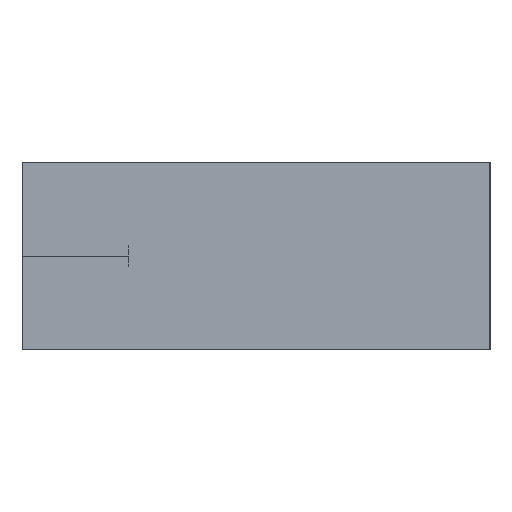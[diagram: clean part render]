
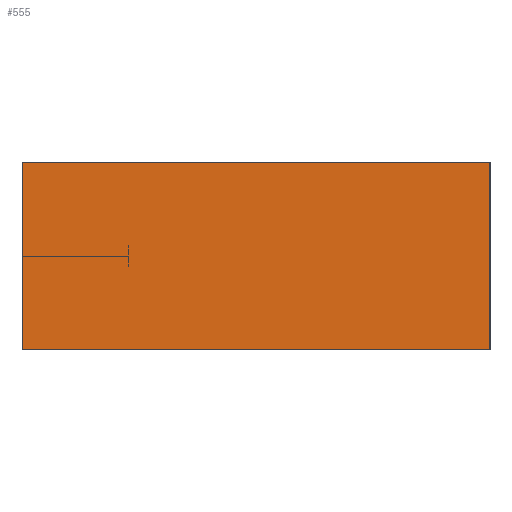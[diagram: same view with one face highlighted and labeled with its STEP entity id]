
A CAD part, left-side view. The second image highlights one B-rep face of the part: STEP entity #555.
In plain terms, the highlighted planar face has unit normal (-1, 0, 0).
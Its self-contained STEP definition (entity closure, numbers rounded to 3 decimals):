
#311 = VERTEX_POINT( '', #824 );
#381 = VERTEX_POINT( '', #897 );
#507 = VERTEX_POINT( '', #1034 );
#509 = EDGE_CURVE( '', #381, #685, #1036, .T. );
#555 = ADVANCED_FACE( '', ( #1088 ), #1089, .T. );
#561 = EDGE_CURVE( '', #685, #507, #1096, .T. );
#583 = EDGE_CURVE( '', #381, #311, #1118, .T. );
#639 = EDGE_CURVE( '', #311, #507, #1180, .T. );
#685 = VERTEX_POINT( '', #1231 );
#824 = CARTESIAN_POINT( '', ( -4., 0., -7. ) );
#897 = CARTESIAN_POINT( '', ( -4., 0., 7. ) );
#1034 = CARTESIAN_POINT( '', ( -4., -35., -7. ) );
#1036 = LINE( '', #1693, #1694 );
#1088 = FACE_OUTER_BOUND( '', #1760, .T. );
#1089 = PLANE( '', #1761 );
#1096 = LINE( '', #1769, #1770 );
#1118 = LINE( '', #1809, #1810 );
#1180 = LINE( '', #1903, #1904 );
#1231 = CARTESIAN_POINT( '', ( -4., -35., 7. ) );
#1693 = CARTESIAN_POINT( '', ( -4., 0., 7. ) );
#1694 = VECTOR( '', #2335, 1. );
#1760 = EDGE_LOOP( '', ( #2412, #2413, #2414, #2415 ) );
#1761 = AXIS2_PLACEMENT_3D( '', #2416, #2417, #2418 );
#1769 = CARTESIAN_POINT( '', ( -4., -35., 7. ) );
#1770 = VECTOR( '', #2429, 1. );
#1809 = CARTESIAN_POINT( '', ( -4., 0., 7. ) );
#1810 = VECTOR( '', #2443, 1. );
#1903 = CARTESIAN_POINT( '', ( -4., 0., -7. ) );
#1904 = VECTOR( '', #2505, 1. );
#2335 = DIRECTION( '', ( 0., -1., 0. ) );
#2412 = ORIENTED_EDGE( '', *, *, #639, .T. );
#2413 = ORIENTED_EDGE( '', *, *, #561, .F. );
#2414 = ORIENTED_EDGE( '', *, *, #509, .F. );
#2415 = ORIENTED_EDGE( '', *, *, #583, .T. );
#2416 = CARTESIAN_POINT( '', ( -4., 0., 7. ) );
#2417 = DIRECTION( '', ( -1., 0., 0. ) );
#2418 = DIRECTION( '', ( 0., 1., 0. ) );
#2429 = DIRECTION( '', ( 0., 0., -1. ) );
#2443 = DIRECTION( '', ( 0., 0., -1. ) );
#2505 = DIRECTION( '', ( 0., -1., 0. ) );
